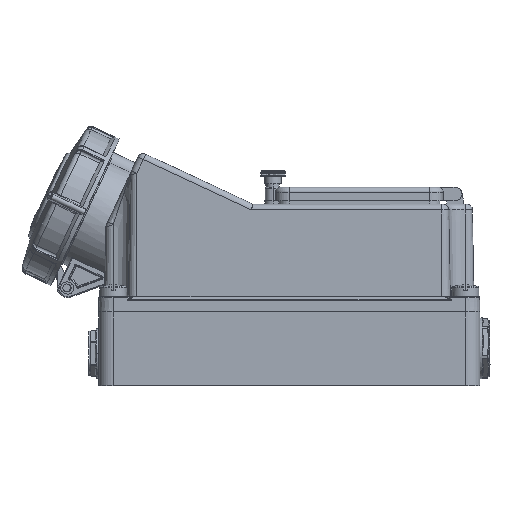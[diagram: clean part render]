
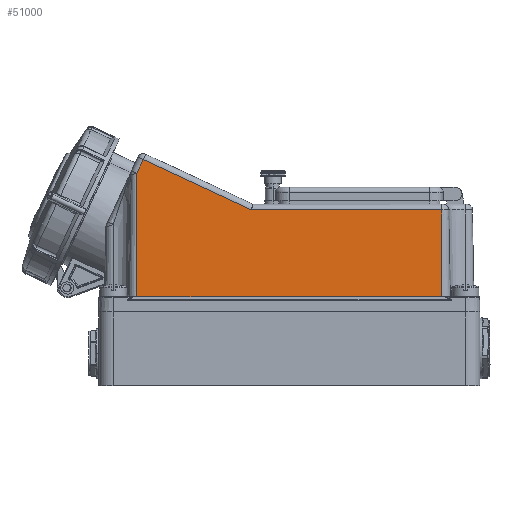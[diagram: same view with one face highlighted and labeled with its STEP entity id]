
A CAD part, front view. The second image highlights one B-rep face of the part: STEP entity #51000.
In plain terms, the highlighted planar face has unit normal (0, -1, 0.018).
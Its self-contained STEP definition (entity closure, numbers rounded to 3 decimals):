
#9212=DIRECTION('',(-0.906,0.007,0.423));
#9213=VECTOR('',#9212,70.441);
#9214=CARTESIAN_POINT('',(-22.311,-54.606,
103.711));
#9215=LINE('1600',#9214,#9213);
#9234=DIRECTION('',(0.,0.017,1.));
#9235=VECTOR('',#9234,51.219);
#9236=CARTESIAN_POINT('',(90.,-55.5,52.5));
#9237=LINE('1612',#9236,#9235);
#9241=DIRECTION('',(1.,0.,0.));
#9242=VECTOR('',#9241,180.);
#9243=CARTESIAN_POINT('',(-90.,-55.5,52.5));
#9244=LINE('1570',#9243,#9242);
#9248=DIRECTION('',(0.,-0.017,-1.));
#9249=VECTOR('',#9248,72.736);
#9250=CARTESIAN_POINT('',(-90.,-54.231,
125.225));
#9251=LINE('1876',#9250,#9249);
#9255=DIRECTION('',(-1.,0.,0.));
#9256=VECTOR('',#9255,112.311);
#9257=CARTESIAN_POINT('',(90.,-54.606,103.711));
#9258=LINE('1598',#9257,#9256);
#22324=DIRECTION('',(-0.423,-0.016,-0.906));
#22325=VECTOR('',#22324,9.11);
#22326=CARTESIAN_POINT('',(-86.151,-54.086,
133.48));
#22327=LINE('1855',#22326,#22325);
#38161=CARTESIAN_POINT('',(-90.,-55.5,52.5));
#38162=CARTESIAN_POINT('',(90.,-55.5,52.5));
#38163=VERTEX_POINT('',#38161);
#38164=VERTEX_POINT('',#38162);
#38209=CARTESIAN_POINT('',(90.,-54.606,103.711));
#38210=VERTEX_POINT('',#38209);
#38213=CARTESIAN_POINT('',(-22.311,-54.606,
103.711));
#38214=VERTEX_POINT('',#38213);
#38217=CARTESIAN_POINT('',(-86.151,-54.086,
133.48));
#38218=VERTEX_POINT('',#38217);
#38471=CARTESIAN_POINT('',(-90.,-54.231,
125.225));
#38472=VERTEX_POINT('',#38471);
#50982=CARTESIAN_POINT('',(-91.2,-55.5,52.5));
#50983=DIRECTION('',(0.,-1.,0.017));
#50984=DIRECTION('',(1.,0.,0.));
#50985=AXIS2_PLACEMENT_3D('',#50982,#50983,#50984);
#50986=PLANE('82',#50985);
#50988=ORIENTED_EDGE('1598',*,*,#50987,.F.);
#50990=ORIENTED_EDGE('1612',*,*,#50989,.F.);
#50992=ORIENTED_EDGE('1570',*,*,#50991,.F.);
#50994=ORIENTED_EDGE('1876',*,*,#50993,.F.);
#50996=ORIENTED_EDGE('1855',*,*,#50995,.F.);
#50997=ORIENTED_EDGE('1600',*,*,#50960,.F.);
#50998=EDGE_LOOP('82',(#50988,#50990,#50992,#50994,#50996,#50997));
#50999=FACE_OUTER_BOUND('82',#50998,.F.);
#50960=EDGE_CURVE('1600',#38214,#38218,#9215,.T.);
#50987=EDGE_CURVE('1598',#38210,#38214,#9258,.T.);
#50989=EDGE_CURVE('1612',#38164,#38210,#9237,.T.);
#50991=EDGE_CURVE('1570',#38163,#38164,#9244,.T.);
#50993=EDGE_CURVE('1876',#38472,#38163,#9251,.T.);
#50995=EDGE_CURVE('1855',#38218,#38472,#22327,.T.);
#51000=ADVANCED_FACE('82',(#50999),#50986,.T.);
